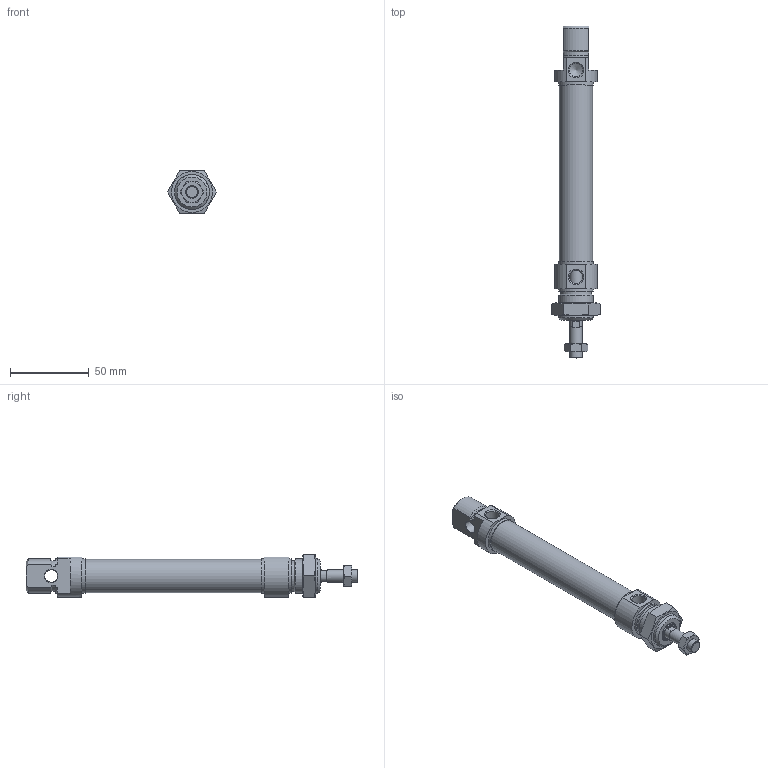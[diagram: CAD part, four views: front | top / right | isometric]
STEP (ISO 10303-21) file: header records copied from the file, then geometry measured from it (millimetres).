
FILE_DESCRIPTION(/* description */ ('Unknown'),/* implementation_level */ '2;1');
FILE_NAME(/* name */ 'RIM 20_80',/* time_stamp */ '2024-08-27T08:38:53+02:00',/* author */ ('Unknown'),/* organization */ ('Unknown'),/* preprocessor_version */ 'ST-DEVELOPER v16.7',/* originating_system */ 'Solid Edge',/* authorisation */ 'Unknown');
FILE_SCHEMA (('AUTOMOTIVE_DESIGN {1 0 10303 214 3 1 1}'));
Length unit declared in the file: millimetre
Products named in the file (7): RIM 20_80; Kit_2; Profilrohr; Kolbenstange; Kit_1; Mutter_1; Mutter_2
Assembly tree (6 placements, depth 2):
  RIM 20_80
    Kit_2
    Profilrohr
    Kolbenstange
    Kit_1
    Mutter_1
    Mutter_2
Bounding box: 31.18 x 211 x 27 mm (x, y, z)
Volume: 53132 mm3; surface area: 32680.1 mm2
Topology: 6 solids, 6 shells, 136 faces, 290 edges, 182 vertices
Faces by surface type: plane 55, cone 42, cylinder 32, torus 7
Full cylindrical faces by diameter (mm): 6.647 x1, 8 x3, 8.5 x1, 8.56 x2, 8.566 x2, 9.1 x1, 12 x1, 12.1 x1, 14.1 x1, 14.2 x1, 19.7 x1, 20 x2, 20.376 x1, 21.27 x1, 22 x2, 22.2 x2
Entity records: 4346 total; most frequent: CARTESIAN_POINT 664, DIRECTION 578, ORIENTED_EDGE 448, AXIS2_PLACEMENT_3D 259, EDGE_CURVE 224, FACE_BOUND 215, EDGE_LOOP 214, VERTEX_POINT 171
